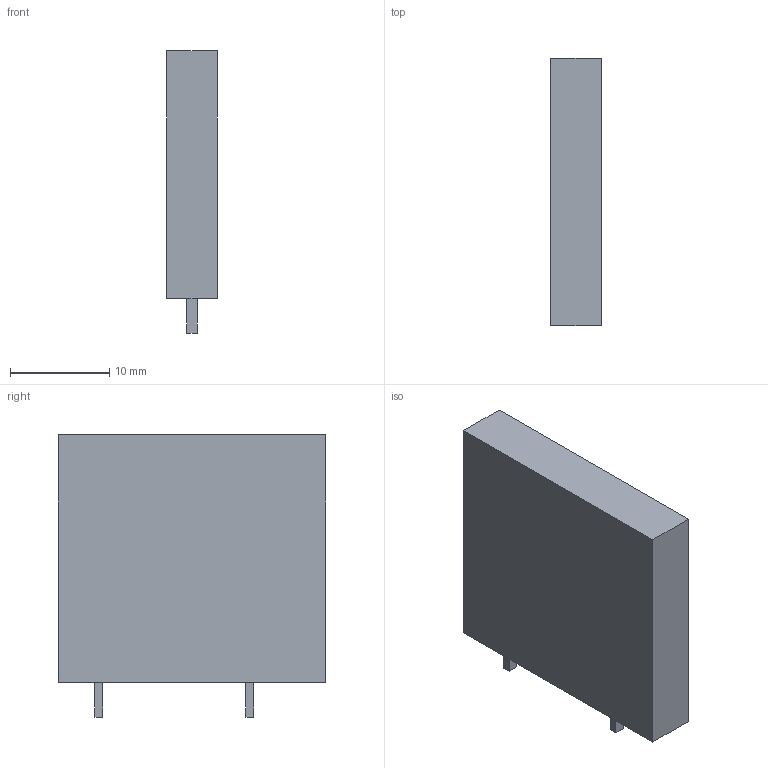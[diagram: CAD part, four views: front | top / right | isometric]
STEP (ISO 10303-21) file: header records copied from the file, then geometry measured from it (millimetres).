
FILE_DESCRIPTION(('Open CASCADE Model'),'2;1');
FILE_NAME('Open CASCADE Shape Model','2000-01-01T00:00:00',('Author'),( 'Open CASCADE'),'Open CASCADE STEP processor 7.9','Open CASCADE 7.9' ,'Unknown');
FILE_SCHEMA(('AUTOMOTIVE_DESIGN { 1 0 10303 214 1 1 1 1 }'));
Length unit declared in the file: millimetre
Products named in the file (4): Open CASCADE STEP translator 7.9 1; Open CASCADE STEP translator 7.9 1.1; Open CASCADE STEP translator 7.9 1.2; Open CASCADE STEP translator 7.9 1.3
Assembly tree (3 placements, depth 2):
  Open CASCADE STEP translator 7.9 1
    Open CASCADE STEP translator 7.9 1.1
    Open CASCADE STEP translator 7.9 1.2
    Open CASCADE STEP translator 7.9 1.3
Bounding box: 5.08 x 27 x 28.5 mm (x, y, z)
Volume: 3435.2 mm3; surface area: 1908.4 mm2
Topology: 3 solids, 3 shells, 18 faces, 36 edges, 24 vertices
Faces by surface type: plane 18
Entity records: 988 total; most frequent: CARTESIAN_POINT 154, DIRECTION 152, LINE 108, VECTOR 108, ORIENTED_EDGE 72, PCURVE 72, DEFINITIONAL_REPRESENTATION 72, EDGE_CURVE 36
